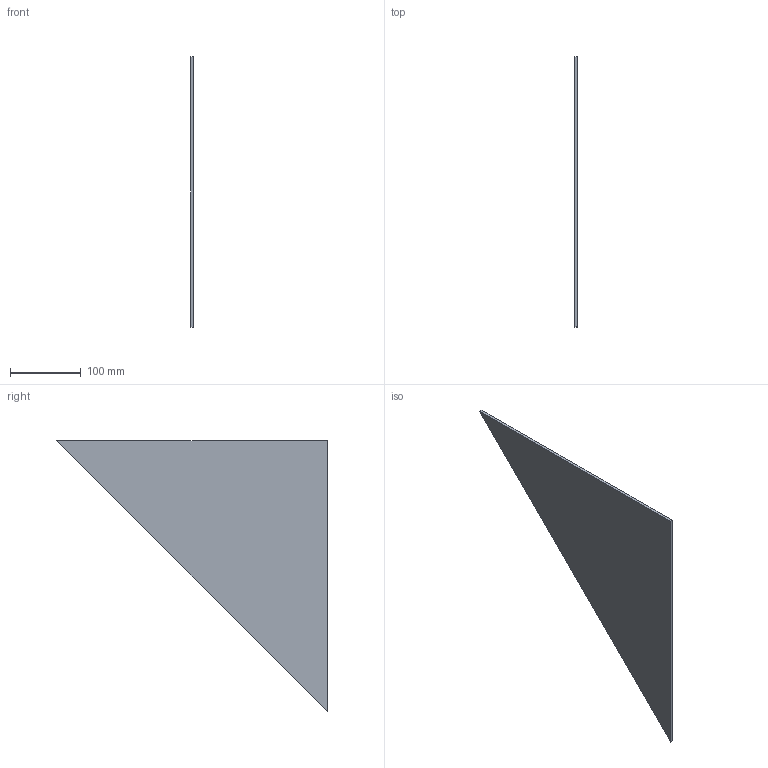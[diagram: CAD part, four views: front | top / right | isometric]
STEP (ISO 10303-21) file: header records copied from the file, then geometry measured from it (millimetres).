
FILE_DESCRIPTION (( 'STEP AP203' ), '1' );
FILE_NAME ('Complément_isolation_parois.STEP', '2026-06-24T07:29:47', ( '' ), ( '' ), 'SwSTEP 2.0', 'SolidWorks 2024', '' );
FILE_SCHEMA (( 'CONFIG_CONTROL_DESIGN' ));
Length unit declared in the file: millimetre
Products named in the file (1): Complément_isolation_parois
Bounding box: 4 x 382 x 382 mm (x, y, z)
Volume: 291848 mm3; surface area: 151140.9 mm2
Topology: 1 solids, 1 shells, 5 faces, 9 edges, 6 vertices
Faces by surface type: plane 5
Entity records: 198 total; most frequent: DIRECTION 21, CARTESIAN_POINT 21, ORIENTED_EDGE 18, EDGE_CURVE 9, VECTOR 9, LINE 9, PERSON_AND_ORGANIZATION 8, AXIS2_PLACEMENT_3D 6
